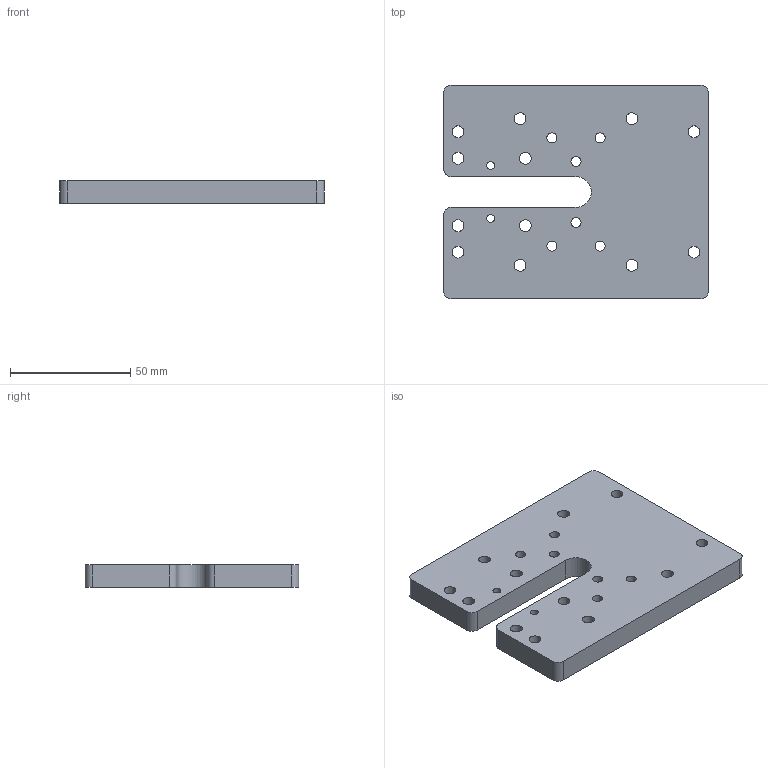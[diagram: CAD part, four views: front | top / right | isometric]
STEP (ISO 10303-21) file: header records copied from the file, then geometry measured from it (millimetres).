
FILE_DESCRIPTION (( 'STEP AP203' ), '1' );
FILE_NAME ('SLM-501-M-GTR.STEP', '2021-01-28T17:02:33', ( '' ), ( '' ), 'SwSTEP 2.0', 'SolidWorks 2020', '' );
FILE_SCHEMA (( 'CONFIG_CONTROL_DESIGN' ));
Length unit declared in the file: inch
Products named in the file (1): SLM-501-M-GTR
Bounding box: 109.98 x 88.9 x 9.53 mm (x, y, z)
Volume: 80588.2 mm3; surface area: 25785.4 mm2
Topology: 1 solids, 1 shells, 74 faces, 177 edges, 118 vertices
Faces by surface type: cylinder 39, plane 35
Full cylindrical faces by diameter (mm): 3.3 x2, 4.2 x6, 4.928 x12, 7.899 x12
Entity records: 2178 total; most frequent: DIRECTION 373, CARTESIAN_POINT 338, ORIENTED_EDGE 290, EDGE_LOOP 159, AXIS2_PLACEMENT_3D 153, EDGE_CURVE 145, VERTEX_POINT 118, FACE_OUTER_BOUND 106
